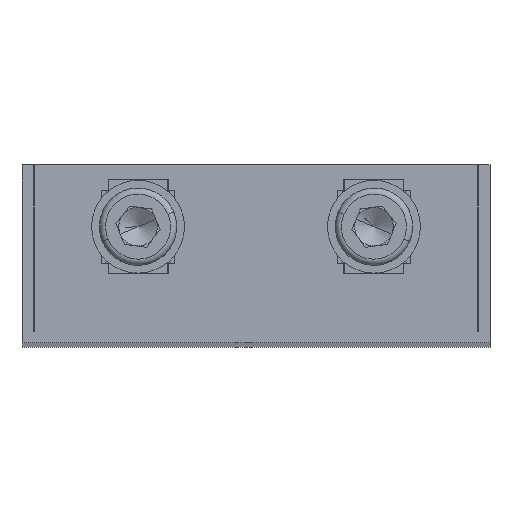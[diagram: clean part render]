
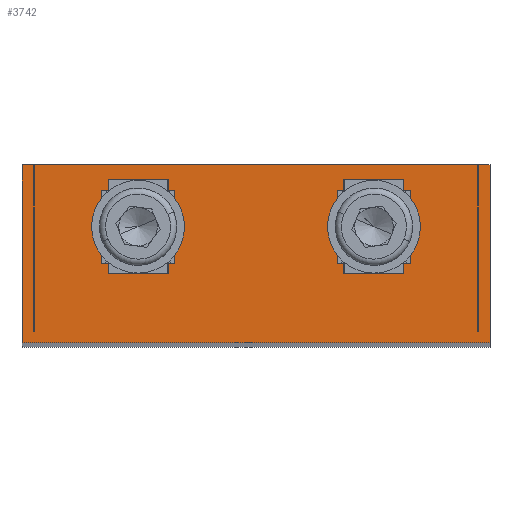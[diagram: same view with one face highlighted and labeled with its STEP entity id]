
A CAD part, top view. The second image highlights one B-rep face of the part: STEP entity #3742.
In plain terms, the highlighted planar face has unit normal (0, 0, 1).
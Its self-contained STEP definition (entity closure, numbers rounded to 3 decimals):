
#2718 = VERTEX_POINT('',#2719);
#2719 = CARTESIAN_POINT('',(-28.65,0.,157.));
#2734 = VERTEX_POINT('',#2735);
#2735 = CARTESIAN_POINT('',(28.65,0.,157.));
#2741 = EDGE_CURVE('',#2742,#2734,#2744,.T.);
#2742 = VERTEX_POINT('',#2743);
#2743 = CARTESIAN_POINT('',(28.75,0.,157.));
#2744 = LINE('',#2745,#2746);
#2745 = CARTESIAN_POINT('',(-28.75,0.,157.));
#2746 = VECTOR('',#2747,1.);
#2747 = DIRECTION('',(-1.,0.,0.));
#2798 = VERTEX_POINT('',#2799);
#2799 = CARTESIAN_POINT('',(-28.75,0.,157.));
#2805 = EDGE_CURVE('',#2798,#2718,#2806,.T.);
#2806 = LINE('',#2807,#2808);
#2807 = CARTESIAN_POINT('',(0.,0.,157.
    ));
#2808 = VECTOR('',#2809,1.);
#2809 = DIRECTION('',(1.,0.,0.));
#2819 = EDGE_CURVE('',#2820,#2822,#2824,.T.);
#2820 = VERTEX_POINT('',#2821);
#2821 = CARTESIAN_POINT('',(-30.25,-1.5,157.));
#2822 = VERTEX_POINT('',#2823);
#2823 = CARTESIAN_POINT('',(30.25,-1.5,157.));
#2824 = LINE('',#2825,#2826);
#2825 = CARTESIAN_POINT('',(-28.75,-1.5,157.));
#2826 = VECTOR('',#2827,1.);
#2827 = DIRECTION('',(1.,0.,0.));
#2859 = EDGE_CURVE('',#2718,#2860,#2862,.T.);
#2860 = VERTEX_POINT('',#2861);
#2861 = CARTESIAN_POINT('',(-28.65,21.5,157.));
#2862 = LINE('',#2863,#2864);
#2863 = CARTESIAN_POINT('',(-28.65,0.6,157.));
#2864 = VECTOR('',#2865,1.);
#2865 = DIRECTION('',(0.,1.,0.));
#2890 = EDGE_CURVE('',#2734,#2891,#2893,.T.);
#2891 = VERTEX_POINT('',#2892);
#2892 = CARTESIAN_POINT('',(28.65,21.5,157.));
#2893 = LINE('',#2894,#2895);
#2894 = CARTESIAN_POINT('',(28.65,0.6,157.));
#2895 = VECTOR('',#2896,1.);
#2896 = DIRECTION('',(0.,1.,0.));
#2928 = EDGE_CURVE('',#2891,#2860,#2929,.T.);
#2929 = LINE('',#2930,#2931);
#2930 = CARTESIAN_POINT('',(0.,21.5,157.));
#2931 = VECTOR('',#2932,1.);
#2932 = DIRECTION('',(-1.,0.,0.));
#3034 = VERTEX_POINT('',#3035);
#3035 = CARTESIAN_POINT('',(28.75,21.5,157.));
#3041 = EDGE_CURVE('',#3034,#3042,#3044,.T.);
#3042 = VERTEX_POINT('',#3043);
#3043 = CARTESIAN_POINT('',(30.25,21.5,157.));
#3044 = LINE('',#3045,#3046);
#3045 = CARTESIAN_POINT('',(28.75,21.5,157.));
#3046 = VECTOR('',#3047,1.);
#3047 = DIRECTION('',(1.,0.,0.));
#3201 = EDGE_CURVE('',#2742,#3034,#3202,.T.);
#3202 = LINE('',#3203,#3204);
#3203 = CARTESIAN_POINT('',(28.75,0.,157.));
#3204 = VECTOR('',#3205,1.);
#3205 = DIRECTION('',(0.,1.,0.));
#3403 = EDGE_CURVE('',#2822,#3042,#3404,.T.);
#3404 = LINE('',#3405,#3406);
#3405 = CARTESIAN_POINT('',(30.25,0.,157.));
#3406 = VECTOR('',#3407,1.);
#3407 = DIRECTION('',(0.,1.,0.));
#3742 = ADVANCED_FACE('',(#3743,#3776,#3810),#3844,.F.);
#3743 = FACE_BOUND('',#3744,.T.);
#3744 = EDGE_LOOP('',(#3745,#3753,#3754,#3755,#3756,#3757,#3758,#3759,
    #3760,#3761,#3762,#3770));
#3745 = ORIENTED_EDGE('',*,*,#3746,.T.);
#3746 = EDGE_CURVE('',#3747,#2820,#3749,.T.);
#3747 = VERTEX_POINT('',#3748);
#3748 = CARTESIAN_POINT('',(-30.25,21.5,157.));
#3749 = LINE('',#3750,#3751);
#3750 = CARTESIAN_POINT('',(-30.25,21.5,157.));
#3751 = VECTOR('',#3752,1.);
#3752 = DIRECTION('',(-0.,-1.,-0.));
#3753 = ORIENTED_EDGE('',*,*,#2819,.T.);
#3754 = ORIENTED_EDGE('',*,*,#3403,.T.);
#3755 = ORIENTED_EDGE('',*,*,#3041,.F.);
#3756 = ORIENTED_EDGE('',*,*,#3201,.F.);
#3757 = ORIENTED_EDGE('',*,*,#2741,.T.);
#3758 = ORIENTED_EDGE('',*,*,#2890,.T.);
#3759 = ORIENTED_EDGE('',*,*,#2928,.T.);
#3760 = ORIENTED_EDGE('',*,*,#2859,.F.);
#3761 = ORIENTED_EDGE('',*,*,#2805,.F.);
#3762 = ORIENTED_EDGE('',*,*,#3763,.F.);
#3763 = EDGE_CURVE('',#3764,#2798,#3766,.T.);
#3764 = VERTEX_POINT('',#3765);
#3765 = CARTESIAN_POINT('',(-28.75,21.5,157.));
#3766 = LINE('',#3767,#3768);
#3767 = CARTESIAN_POINT('',(-28.75,21.5,157.));
#3768 = VECTOR('',#3769,1.);
#3769 = DIRECTION('',(0.,-1.,0.));
#3770 = ORIENTED_EDGE('',*,*,#3771,.F.);
#3771 = EDGE_CURVE('',#3747,#3764,#3772,.T.);
#3772 = LINE('',#3773,#3774);
#3773 = CARTESIAN_POINT('',(-30.25,21.5,157.));
#3774 = VECTOR('',#3775,1.);
#3775 = DIRECTION('',(1.,0.,0.));
#3776 = FACE_BOUND('',#3777,.T.);
#3777 = EDGE_LOOP('',(#3778,#3788,#3796,#3804));
#3778 = ORIENTED_EDGE('',*,*,#3779,.F.);
#3779 = EDGE_CURVE('',#3780,#3782,#3784,.T.);
#3780 = VERTEX_POINT('',#3781);
#3781 = CARTESIAN_POINT('',(-20.,18.25,157.));
#3782 = VERTEX_POINT('',#3783);
#3783 = CARTESIAN_POINT('',(-20.,8.75,157.));
#3784 = LINE('',#3785,#3786);
#3785 = CARTESIAN_POINT('',(-20.,8.75,157.));
#3786 = VECTOR('',#3787,1.);
#3787 = DIRECTION('',(-0.,-1.,-0.));
#3788 = ORIENTED_EDGE('',*,*,#3789,.F.);
#3789 = EDGE_CURVE('',#3790,#3780,#3792,.T.);
#3790 = VERTEX_POINT('',#3791);
#3791 = CARTESIAN_POINT('',(-10.5,18.25,157.));
#3792 = LINE('',#3793,#3794);
#3793 = CARTESIAN_POINT('',(-11.,18.25,157.));
#3794 = VECTOR('',#3795,1.);
#3795 = DIRECTION('',(-1.,0.,0.));
#3796 = ORIENTED_EDGE('',*,*,#3797,.F.);
#3797 = EDGE_CURVE('',#3798,#3790,#3800,.T.);
#3798 = VERTEX_POINT('',#3799);
#3799 = CARTESIAN_POINT('',(-10.5,8.75,157.));
#3800 = LINE('',#3801,#3802);
#3801 = CARTESIAN_POINT('',(-10.5,18.25,157.));
#3802 = VECTOR('',#3803,1.);
#3803 = DIRECTION('',(-0.,1.,-0.));
#3804 = ORIENTED_EDGE('',*,*,#3805,.F.);
#3805 = EDGE_CURVE('',#3782,#3798,#3806,.T.);
#3806 = LINE('',#3807,#3808);
#3807 = CARTESIAN_POINT('',(-10.5,8.75,157.));
#3808 = VECTOR('',#3809,1.);
#3809 = DIRECTION('',(1.,-0.,-0.));
#3810 = FACE_BOUND('',#3811,.T.);
#3811 = EDGE_LOOP('',(#3812,#3822,#3830,#3838));
#3812 = ORIENTED_EDGE('',*,*,#3813,.F.);
#3813 = EDGE_CURVE('',#3814,#3816,#3818,.T.);
#3814 = VERTEX_POINT('',#3815);
#3815 = CARTESIAN_POINT('',(10.5,18.25,157.));
#3816 = VERTEX_POINT('',#3817);
#3817 = CARTESIAN_POINT('',(10.5,8.75,157.));
#3818 = LINE('',#3819,#3820);
#3819 = CARTESIAN_POINT('',(10.5,8.75,157.));
#3820 = VECTOR('',#3821,1.);
#3821 = DIRECTION('',(-0.,-1.,-0.));
#3822 = ORIENTED_EDGE('',*,*,#3823,.F.);
#3823 = EDGE_CURVE('',#3824,#3814,#3826,.T.);
#3824 = VERTEX_POINT('',#3825);
#3825 = CARTESIAN_POINT('',(20.,18.25,157.));
#3826 = LINE('',#3827,#3828);
#3827 = CARTESIAN_POINT('',(11.,18.25,157.));
#3828 = VECTOR('',#3829,1.);
#3829 = DIRECTION('',(-1.,-0.,-0.));
#3830 = ORIENTED_EDGE('',*,*,#3831,.F.);
#3831 = EDGE_CURVE('',#3832,#3824,#3834,.T.);
#3832 = VERTEX_POINT('',#3833);
#3833 = CARTESIAN_POINT('',(20.,8.75,157.));
#3834 = LINE('',#3835,#3836);
#3835 = CARTESIAN_POINT('',(20.,17.75,157.));
#3836 = VECTOR('',#3837,1.);
#3837 = DIRECTION('',(0.,1.,0.));
#3838 = ORIENTED_EDGE('',*,*,#3839,.F.);
#3839 = EDGE_CURVE('',#3816,#3832,#3840,.T.);
#3840 = LINE('',#3841,#3842);
#3841 = CARTESIAN_POINT('',(19.5,8.75,157.));
#3842 = VECTOR('',#3843,1.);
#3843 = DIRECTION('',(1.,0.,0.));
#3844 = PLANE('',#3845);
#3845 = AXIS2_PLACEMENT_3D('',#3846,#3847,#3848);
#3846 = CARTESIAN_POINT('',(28.15,0.6,157.));
#3847 = DIRECTION('',(0.,0.,-1.));
#3848 = DIRECTION('',(-1.,0.,0.));
